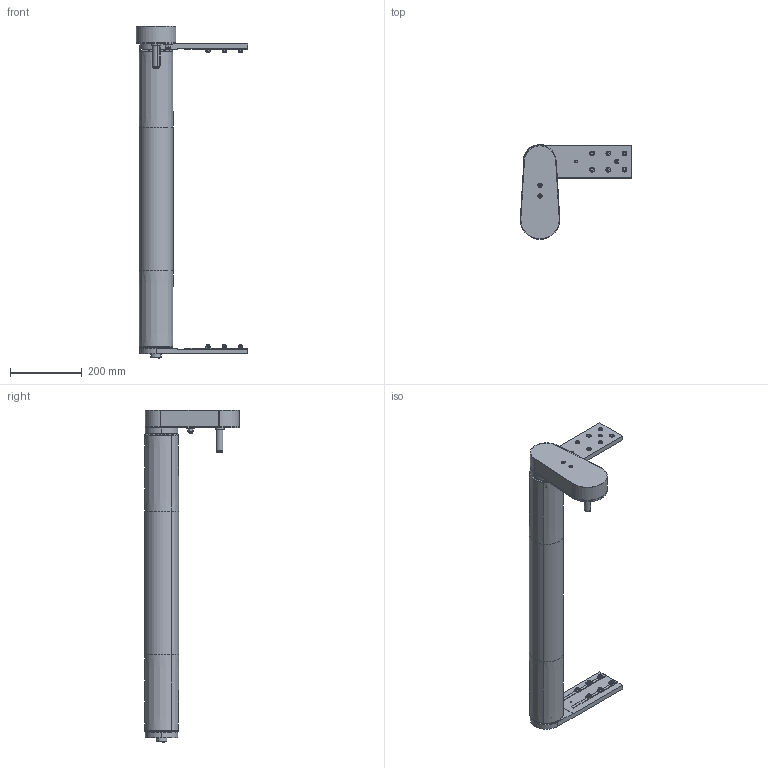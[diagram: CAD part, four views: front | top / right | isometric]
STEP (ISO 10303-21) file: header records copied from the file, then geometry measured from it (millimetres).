
FILE_DESCRIPTION (( 'STEP AP203' ), '1' );
FILE_NAME ('084.095.KTB.44.800.STEP', '2019-07-30T07:41:38', ( '' ), ( '' ), 'SwSTEP 2.0', 'SolidWorks 2018', '' );
FILE_SCHEMA (( 'CONFIG_CONTROL_DESIGN' ));
Length unit declared in the file: millimetre
Products named in the file (26): 084.808.002_084.808.002; 084.809.003; 084.808.003_084.808.003; DADI ESAGONALI AUTOBLOCCANTI UNI 7473_M8 UNI 7473; 084.810.008; 084.095.KTB.44.800; 084.816.112_084.816.107<A macchina>; 084.802.034_084.802.034; 084.821.003; 084.810.003; Circlip DIN 471 - 8 x 0.8_Circlip DIN 471 - 8 x 0.8; CHIAVETTE_A 6x6x50 UNI 6604-69; 084.810.006; ANELLI ELASTICI PER ESTERNI UNI 7435-75_25 UNI 7435; 084.802.019_084.802.019; 084.301.000 VITI ALUSIC_084.301.003; CHIAVETTE_A 8x7x25 UNI 6604-69; 084.813.004; 084.809.001; 084.302.000 DADI ALUSIC 13x13_084.302.004; 084.821.002; Specchiatura084.302.000 DADI ALUSIC 13x13_084.302.004; 084.813.002; 084.812.003; CUSCINETTI A SFERE_608-2RS; RONDELLE FASCIA LARGA UNI 6593_8.4x24 UNI 6593
Assembly tree (53 placements, depth 3):
  084.095.KTB.44.800
    084.808.003_084.808.003
    084.810.003  x2
    084.808.002_084.808.002
    084.802.034_084.802.034
    084.802.019_084.802.019
    084.812.003
    084.813.002
    084.809.003
    084.821.002  x2
    084.809.001
    084.813.004
    084.816.112_084.816.107<A macchina>
    084.810.006
      084.810.008
      CUSCINETTI A SFERE_608-2RS  x3
      Circlip DIN 471 - 8 x 0.8_Circlip DIN 471 - 8 x 0.8
      RONDELLE FASCIA LARGA UNI 6593_8.4x24 UNI 6593
      DADI ESAGONALI AUTOBLOCCANTI UNI 7473_M8 UNI 7473
    084.821.003
    084.302.000 DADI ALUSIC 13x13_084.302.004  x6
    084.301.000 VITI ALUSIC_084.301.003  x12
    Specchiatura084.302.000 DADI ALUSIC 13x13_084.302.004  x6
    CHIAVETTE_A 6x6x50 UNI 6604-69
    CHIAVETTE_A 8x7x25 UNI 6604-69  x3
    ANELLI ELASTICI PER ESTERNI UNI 7435-75_25 UNI 7435  x2
Bounding box: 310 x 263.87 x 923.5 mm (x, y, z)
Volume: 2719328.6 mm3; surface area: 1268638.4 mm2
Topology: 57 solids, 58 shells, 1834 faces, 4770 edges, 3115 vertices
Faces by surface type: plane 861, cylinder 670, cone 124, torus 122, bspline 48, sphere 9
Entity records: 42360 total; most frequent: CARTESIAN_POINT 8195, DIRECTION 6560, ORIENTED_EDGE 6334, EDGE_CURVE 3167, AXIS2_PLACEMENT_3D 2383, VERTEX_POINT 2074, LINE 1794, VECTOR 1794
